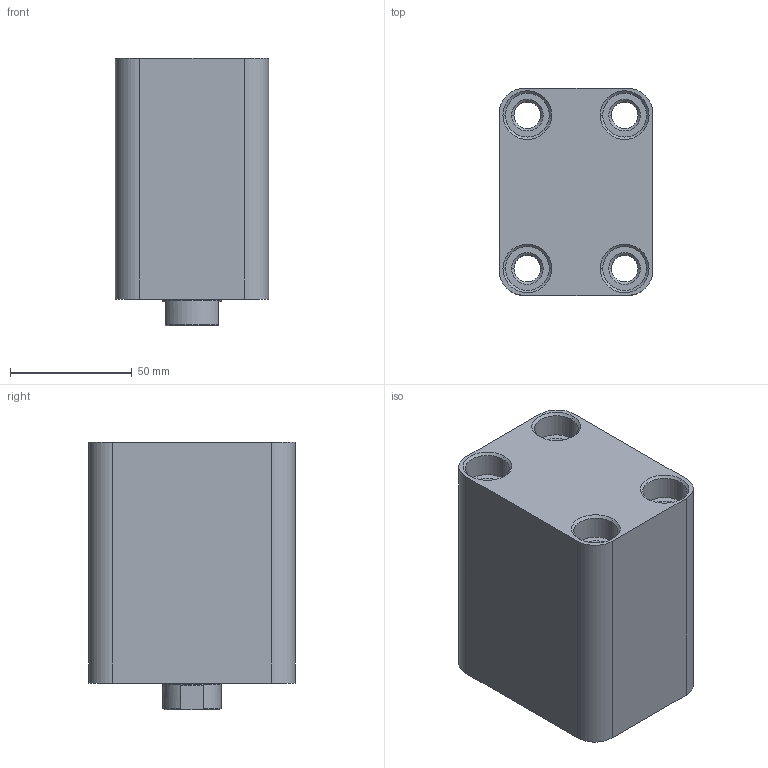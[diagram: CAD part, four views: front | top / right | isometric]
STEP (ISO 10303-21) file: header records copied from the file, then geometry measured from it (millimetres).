
FILE_DESCRIPTION (( 'STEP AP214' ), '1' );
FILE_NAME ('KBZ_02_40_25_45.STEP', '2022-10-02T11:09:29', ( '' ), ( '' ), 'SwSTEP 2.0', 'SolidWorks 2021', '' );
FILE_SCHEMA (( 'AUTOMOTIVE_DESIGN' ));
Length unit declared in the file: millimetre
Products named in the file (9): 25_28_PAP_25_05; K22-25X35X6; KBZ_03_40_25_ON_KAPAK; K05-25X31X4; KBZ_02_40_GOVDE_WEB; KO-38X3; KBZ_02_40_25_45; KBZ_02_25_K_MIL_WEB; KBZ_03_40_25_烰_KAPAK
Assembly tree (8 placements, depth 3):
  KBZ_02_40_25_45
    KBZ_02_40_GOVDE_WEB
    KBZ_03_40_25_烰_KAPAK
      KBZ_03_40_25_ON_KAPAK
      K05-25X31X4
      KO-38X3
      25_28_PAP_25_05
      K22-25X35X6
    KBZ_02_25_K_MIL_WEB
Bounding box: 63 x 85 x 110 mm (x, y, z)
Volume: 420602.4 mm3; surface area: 92199 mm2
Topology: 7 solids, 7 shells, 575 faces, 1401 edges, 891 vertices
Faces by surface type: plane 213, bspline 194, cone 84, cylinder 76, torus 8
Entity records: 25858 total; most frequent: CARTESIAN_POINT 13124, ORIENTED_EDGE 2798, DIRECTION 2037, EDGE_CURVE 1399, VERTEX_POINT 891, LINE 743, VECTOR 743, EDGE_LOOP 650
